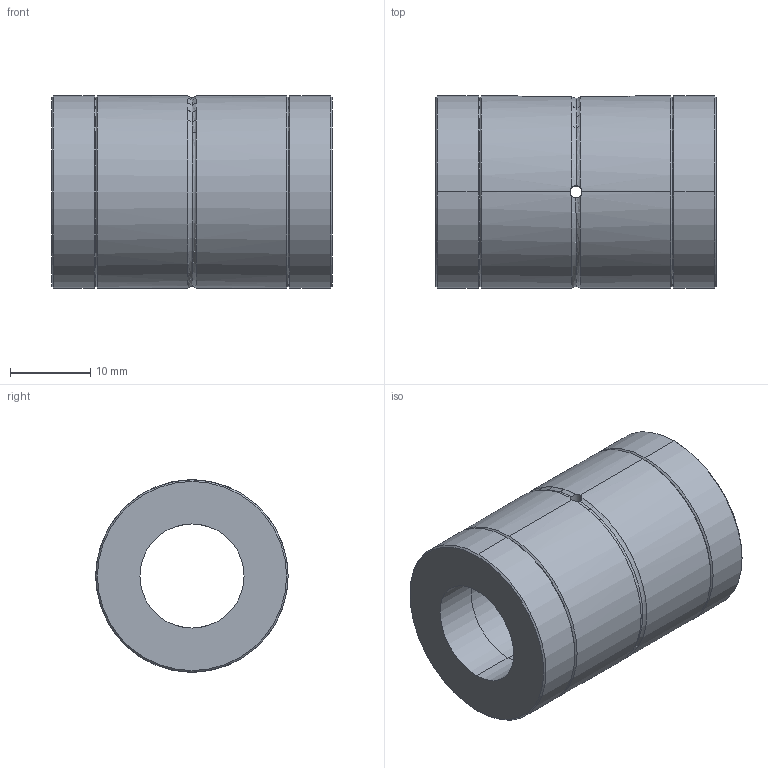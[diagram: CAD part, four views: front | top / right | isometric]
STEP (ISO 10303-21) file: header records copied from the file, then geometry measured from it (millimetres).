
FILE_DESCRIPTION (( 'STEP AP203' ), '1' );
FILE_NAME ('KLT013T2.STEP', '2023-08-11T07:23:44', ( 'Microsoft' ), ( 'Microsoft' ), 'SwSTEP 2.0', 'SolidWorks 2022', '' );
FILE_SCHEMA (( 'CONFIG_CONTROL_DESIGN' ));
Length unit declared in the file: millimetre
Products named in the file (4): 零件7^KLT013T2; 零件4^KLT013T2; KLT013T2; 零件6^KLT013T2
Assembly tree (3 placements, depth 2):
  KLT013T2
    零件4^KLT013T2
    零件6^KLT013T2
    零件7^KLT013T2
Bounding box: 35 x 24 x 24 mm (x, y, z)
Volume: 11086.4 mm3; surface area: 6031.1 mm2
Topology: 3 solids, 3 shells, 47 faces, 115 edges, 70 vertices
Faces by surface type: cylinder 20, cone 12, plane 9, torus 6
Entity records: 1964 total; most frequent: CARTESIAN_POINT 444, DIRECTION 242, ORIENTED_EDGE 230, EDGE_CURVE 115, AXIS2_PLACEMENT_3D 100, VERTEX_POINT 70, EDGE_LOOP 53, FACE_OUTER_BOUND 47
